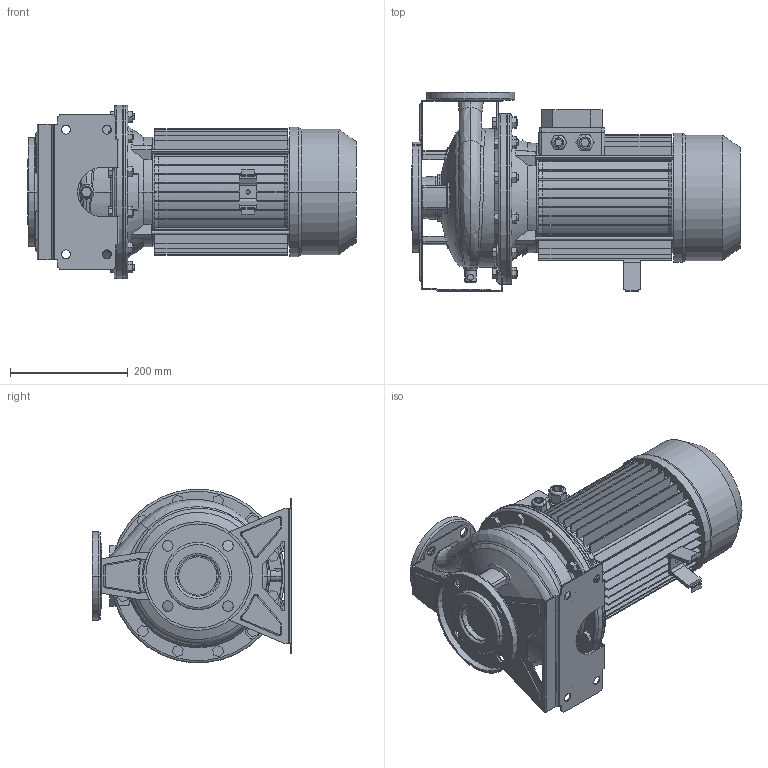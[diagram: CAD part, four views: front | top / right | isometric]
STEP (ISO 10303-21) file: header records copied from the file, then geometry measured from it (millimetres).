
FILE_DESCRIPTION((''),'2;1');
FILE_NAME('3M_40-200_7_5_IE3_ASM','2016-06-22T',('rosa'),('"Ebara Pumps Europe +39.444.706811"'),'PRO/ENGINEER BY PARAMETRIC TECHNOLOGY CORPORATION, 2012130','PRO/ENGINEER BY PARAMETRIC TECHNOLOGY CORPORATION, 2012130','');
FILE_SCHEMA(('AUTOMOTIVE_DESIGN { 1 0 10303 214 1 1 1 1 }'));
Length unit declared in the file: millimetre
Products named in the file (11): CORPO_40-200_AF0; ASP_40-200; FLANGIA_DIN_65; MAND_40-200; FLANGIA_DIN_40; BASE_3M_40-200; CORPO_SALDATO_40-200_ASM; SUPPORTO_3M_230_112; MEC_112X200_IE3; SOSTEGNO_72008; 3M_40-200_7_5_IE3_ASM
Assembly tree (10 placements, depth 3):
  3M_40-200_7_5_IE3_ASM
    CORPO_SALDATO_40-200_ASM
      CORPO_40-200_AF0
      ASP_40-200
      FLANGIA_DIN_65
      MAND_40-200
      FLANGIA_DIN_40
      BASE_3M_40-200
    SUPPORTO_3M_230_112
    MEC_112X200_IE3
    SOSTEGNO_72008
Bounding box: 559 x 340 x 295.13 mm (x, y, z)
Volume: 12786621.1 mm3; surface area: 1517436 mm2
Topology: 12 solids, 12 shells, 1148 faces, 2907 edges, 1860 vertices
Faces by surface type: plane 613, cylinder 337, cone 96, torus 62, bspline 34, sphere 6
Entity records: 48767 total; most frequent: CARTESIAN_POINT 9710, DIRECTION 5962, ORIENTED_EDGE 5814, PRESENTATION_STYLE_ASSIGNMENT 2919, STYLED_ITEM 2919, CURVE_STYLE 2907, EDGE_CURVE 2907, AXIS2_PLACEMENT_3D 2169
